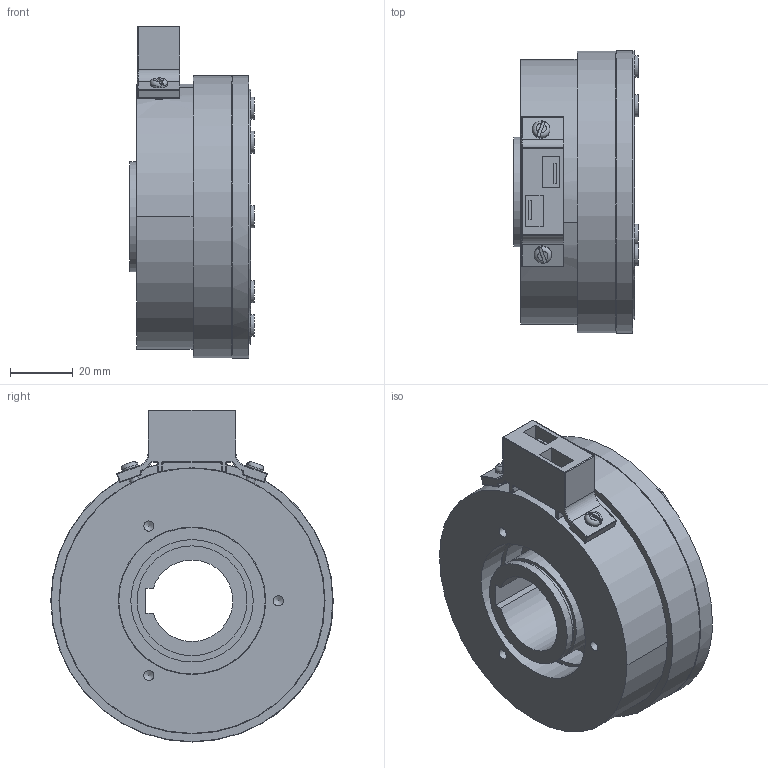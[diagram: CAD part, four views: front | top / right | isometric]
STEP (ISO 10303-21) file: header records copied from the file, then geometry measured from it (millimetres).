
FILE_DESCRIPTION(/* description */ (''),/* implementation_level */ '2;1');
FILE_NAME(/* name */ 'X:\INVENTOR\DISEGNI\08_Freni_Friz_Elettmag_Monodisco\08_26 EMSL_DF\EMSL_DF STEP\08_26_090_21 EMSL090_DF-BM_S@STEP.stp',/* time_stamp */ '2018-04-24T08:21:56+02:00',/* author */ ('stefano'),/* organization */ (''),/* preprocessor_version */ 'ST-DEVELOPER v17',/* originating_system */ 'Autodesk Inventor 2018',/* authorisation */ '');
FILE_SCHEMA (('AUTOMOTIVE_DESIGN { 1 0 10303 214 3 1 1 }'));
Length unit declared in the file: millimetre
Products named in the file (1): 08_26_090_21 EMSL090_DF-BM -Spina_Substitute_1
Bounding box: 39.7 x 90 x 105.8 mm (x, y, z)
Volume: 171839.6 mm3; surface area: 63893.4 mm2
Topology: 3 solids, 3 shells, 374 faces, 998 edges, 641 vertices
Faces by surface type: cylinder 201, plane 101, torus 26, sphere 24, cone 22
Full cylindrical faces by diameter (mm): 1.5 x6, 3 x2, 3.242 x3, 5.1 x9, 5.6 x2, 6 x1, 7 x6, 33 x1, 35 x2, 39 x1, 42 x1, 46.7 x1, 47 x2, 49.5 x1, 54 x1, 80 x1, 84.8 x1, 89.8 x1, 90 x1
Entity records: 12392 total; most frequent: DIRECTION 2289, CARTESIAN_POINT 2180, ORIENTED_EDGE 1944, EDGE_CURVE 972, AXIS2_PLACEMENT_3D 959, VERTEX_POINT 641, CIRCLE 584, EDGE_LOOP 465
